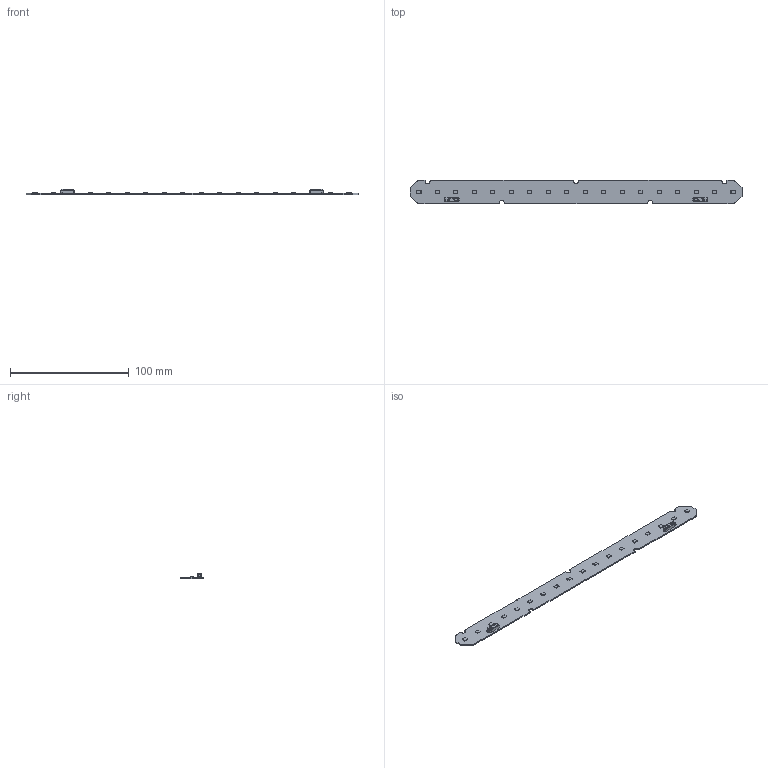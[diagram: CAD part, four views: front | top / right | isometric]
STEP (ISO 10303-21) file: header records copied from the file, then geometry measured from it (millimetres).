
FILE_DESCRIPTION(/* description */ ('Unknown'),/* implementation_level */ '2;1');
FILE_NAME(/* name */ 'LinLED 550lm per 1ft 2C 280x20',/* time_stamp */ '2023-05-12T09:41:46+02:00',/* author */ ('Unknown'),/* organization */ ('Unknown'),/* preprocessor_version */ 'ST-DEVELOPER v18.102',/* originating_system */ 'Solid Edge',/* authorisation */ 'Unknown');
FILE_SCHEMA (('AUTOMOTIVE_DESIGN {1 0 10303 214 3 1 1}'));
Length unit declared in the file: millimetre
Products named in the file (1): LinLED 550lm per 1ft 2C 280x20
Bounding box: 279.6 x 20 x 4.45 mm (x, y, z)
Volume: 5797.3 mm3; surface area: 12064.1 mm2
Topology: 1 solids, 1 shells, 814 faces, 2122 edges, 1346 vertices
Faces by surface type: plane 509, cylinder 149, torus 64, cone 50, bspline 26, sphere 16
Entity records: 31364 total; most frequent: CARTESIAN_POINT 6509, ORIENTED_EDGE 4196, DIRECTION 3538, EDGE_CURVE 2098, LINE 1452, VECTOR 1452, VERTEX_POINT 1340, AXIS2_PLACEMENT_3D 1043
